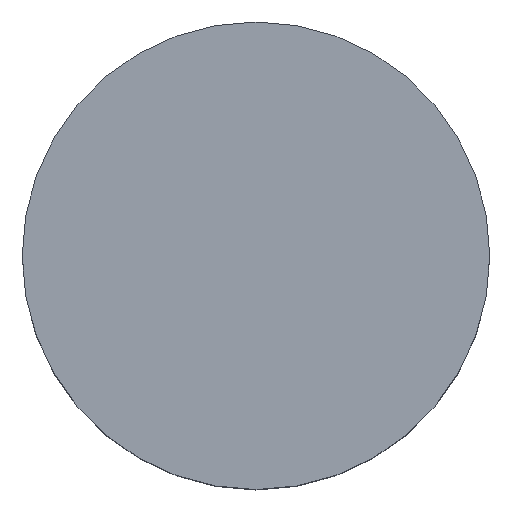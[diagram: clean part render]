
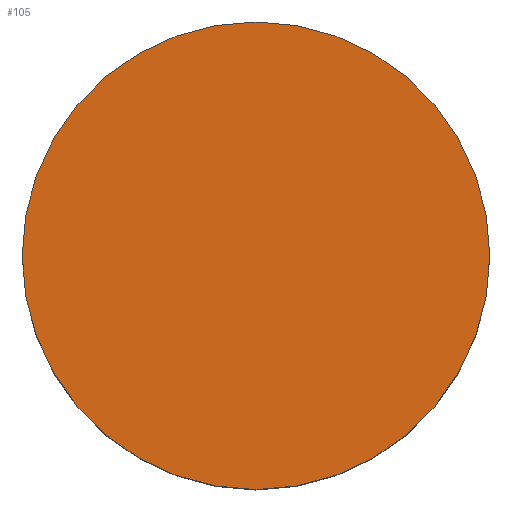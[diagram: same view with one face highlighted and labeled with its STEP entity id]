
A CAD part, top view. The second image highlights one B-rep face of the part: STEP entity #105.
In plain terms, the highlighted planar face has unit normal (0, 0, 1).
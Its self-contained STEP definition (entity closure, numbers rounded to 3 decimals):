
#21 = EDGE_CURVE('',#22,#22,#24,.T.);
#22 = VERTEX_POINT('',#23);
#23 = CARTESIAN_POINT('',(5.5,0.,3.));
#24 = SURFACE_CURVE('',#25,(#30,#42),.PCURVE_S1.);
#25 = CIRCLE('',#26,5.5);
#26 = AXIS2_PLACEMENT_3D('',#27,#28,#29);
#27 = CARTESIAN_POINT('',(0.,0.,3.));
#28 = DIRECTION('',(0.,0.,1.));
#29 = DIRECTION('',(1.,0.,-0.));
#30 = PCURVE('',#31,#36);
#31 = CYLINDRICAL_SURFACE('',#32,5.5);
#32 = AXIS2_PLACEMENT_3D('',#33,#34,#35);
#33 = CARTESIAN_POINT('',(0.,0.,-3.));
#34 = DIRECTION('',(0.,0.,1.));
#35 = DIRECTION('',(1.,0.,-0.));
#36 = DEFINITIONAL_REPRESENTATION('',(#37),#41);
#37 = LINE('',#38,#39);
#38 = CARTESIAN_POINT('',(0.,6.));
#39 = VECTOR('',#40,1.);
#40 = DIRECTION('',(1.,0.));
#41 = ( GEOMETRIC_REPRESENTATION_CONTEXT(2) 
PARAMETRIC_REPRESENTATION_CONTEXT() REPRESENTATION_CONTEXT('2D SPACE',''
  ) );
#42 = PCURVE('',#43,#48);
#43 = PLANE('',#44);
#44 = AXIS2_PLACEMENT_3D('',#45,#46,#47);
#45 = CARTESIAN_POINT('',(0.,0.,3.));
#46 = DIRECTION('',(0.,0.,1.));
#47 = DIRECTION('',(1.,0.,-0.));
#48 = DEFINITIONAL_REPRESENTATION('',(#49),#53);
#49 = CIRCLE('',#50,5.5);
#50 = AXIS2_PLACEMENT_2D('',#51,#52);
#51 = CARTESIAN_POINT('',(0.,0.));
#52 = DIRECTION('',(1.,0.));
#53 = ( GEOMETRIC_REPRESENTATION_CONTEXT(2) 
PARAMETRIC_REPRESENTATION_CONTEXT() REPRESENTATION_CONTEXT('2D SPACE',''
  ) );
#105 = ADVANCED_FACE('',(#106),#43,.T.);
#106 = FACE_BOUND('',#107,.T.);
#107 = EDGE_LOOP('',(#108));
#108 = ORIENTED_EDGE('',*,*,#21,.T.);
